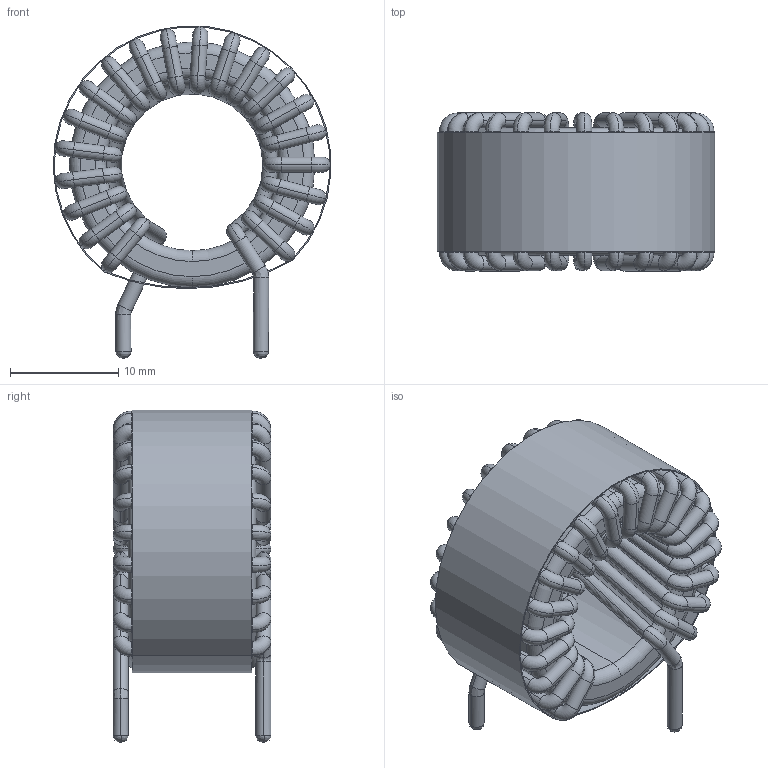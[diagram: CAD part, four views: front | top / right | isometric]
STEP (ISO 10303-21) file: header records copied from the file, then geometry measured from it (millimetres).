
FILE_DESCRIPTION (( 'STEP AP203' ), '1' );
FILE_NAME ('C-14563-00.STEP', '2021-01-11T09:56:06', ( 'Windows User' ), ( '' ), 'SwSTEP 2.0', 'SolidWorks 2015', '' );
FILE_SCHEMA (( 'CONFIG_CONTROL_DESIGN' ));
Length unit declared in the file: inch
Products named in the file (3): C-14563-00; C-14563-00 - COIL; C-14563-00 - CORE
Assembly tree (2 placements, depth 2):
  C-14563-00
    C-14563-00 - CORE
    C-14563-00 - COIL
Bounding box: 25.65 x 14.6 x 30.68 mm (x, y, z)
Volume: 3573.7 mm3; surface area: 6683.1 mm2
Topology: 3 solids, 3 shells, 370 faces, 948 edges, 584 vertices
Faces by surface type: torus 172, cylinder 130, bspline 58, plane 10
Entity records: 15445 total; most frequent: CARTESIAN_POINT 6063, DIRECTION 2106, ORIENTED_EDGE 1896, AXIS2_PLACEMENT_3D 983, EDGE_CURVE 948, CIRCLE 666, VERTEX_POINT 584, EDGE_LOOP 374
